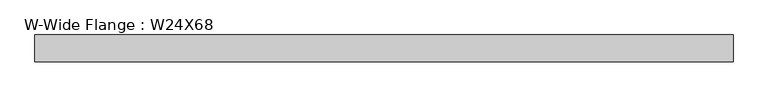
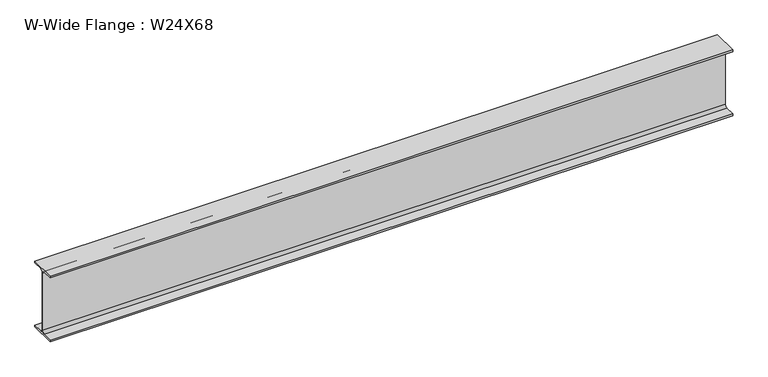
"""IFC4 building model written with IfcOpenShell, lengths in millimetres: beam geometry, W-Wide Flange : W24X68."""

from ifc_helpers import new_model, si_unit, point, frame, frame_2d, origin, place, context, project, spatial, polyline, circle_curve, trimmed, segment, composite_curve, outline, extrude, source, transform, mapped, element, save


def w_wide_flange_w24x68_4326577b(model_context):
    return source(origin(), model_context, "Body", "SweptSolid", [
        extrude(outline(composite_curve([segment(polyline([(-113.919, -286.131), (-28.5115, -286.131)]), True, "CONTINUOUS"), segment(trimmed(circle_curve(frame_2d((-28.5115, -262.89)), 23.241), [point((-28.5115, -286.131))], [point((-5.2705, -262.89))], True, "CARTESIAN"), True, "CONTINUOUS"), segment(polyline([(-5.2705, -262.89), (-5.2705, 262.89)]), True, "CONTINUOUS"), segment(trimmed(circle_curve(frame_2d((-28.5115, 262.89)), 23.241), [point((-5.2705, 262.89))], [point((-28.5115, 286.131))], True, "CARTESIAN"), True, "CONTINUOUS"), segment(polyline([(-28.5115, 286.131), (-113.919, 286.131), (-113.919, 300.99), (113.919, 300.99), (113.919, 286.131), (28.5115, 286.131)]), True, "CONTINUOUS"), segment(trimmed(circle_curve(frame_2d((28.5115, 262.89)), 23.241), [point((28.5115, 286.131))], [point((5.2705, 262.89))], True, "CARTESIAN"), True, "CONTINUOUS"), segment(polyline([(5.2705, 262.89), (5.2705, -262.89)]), True, "CONTINUOUS"), segment(trimmed(circle_curve(frame_2d((28.5115, -262.89)), 23.241), [point((5.2705, -262.89))], [point((28.5115, -286.131))], True, "CARTESIAN"), True, "CONTINUOUS"), segment(polyline([(28.5115, -286.131), (113.919, -286.131), (113.919, -300.99), (-113.919, -300.99), (-113.919, -286.131)]), True, "CONTINUOUS")], self_intersect=False)), frame((-2964.3453174, 0.0, 0.0), z_axis=(1.0, 0.0, 0.0), x_axis=(0.0, 1.0, 0.0)), (0.0, 0.0, 1.0), 5928.6906348),
    ])


if __name__ == "__main__":
    model = new_model("IFC4")
    model_context = context("Model", 3, world=origin())
    ifc_project = project(units=[si_unit("LENGTHUNIT", "METRE", prefix="MILLI")], contexts=[model_context])
    site = spatial("IfcSite", under=ifc_project)
    building = spatial("IfcBuilding", under=site)
    placement = place(None, origin())
    w_wide_flange_w24x68_shape = w_wide_flange_w24x68_4326577b(model_context)
    element("IfcBeam", 1, ObjectType="W-Wide Flange : W24X68", at=placement, inside=building, context=model_context, shape_type="MappedRepresentation", body=[
        mapped(w_wide_flange_w24x68_shape, transform((0.0, 0.0, 0.0), x_axis=(1.0, 0.0, 0.0), y_axis=(0.0, 1.0, 0.0), z_axis=(0.0, 0.0, 1.0))),
    ])
    save(model, "model.ifc")
